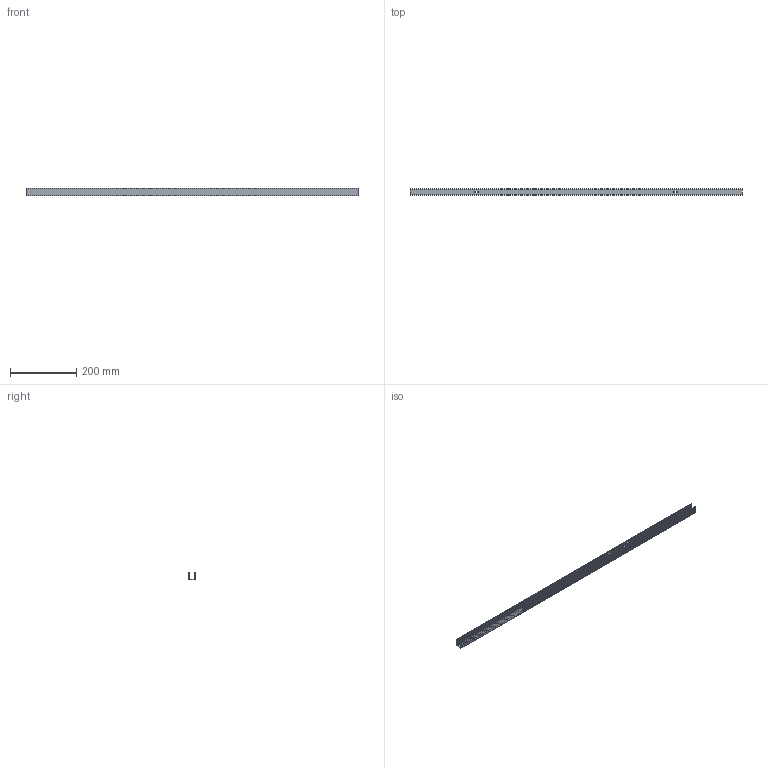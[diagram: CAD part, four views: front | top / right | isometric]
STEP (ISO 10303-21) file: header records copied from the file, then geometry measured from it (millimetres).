
FILE_DESCRIPTION(/* description */ (''),/* implementation_level */ '2;1');
FILE_NAME(/* name */ 'LF_SILICONE_STRAIGHT_PROFILE_L1000_R01.step',/* time_stamp */ '2026-08-18T15:19:33+02:00',/* author */ (''),/* organization */ (''),/* preprocessor_version */ 'ST-DEVELOPER v20.1',/* originating_system */ 'Autodesk Translation Framework v15.8.0.0',/* authorisation */ '');
FILE_SCHEMA (('AUTOMOTIVE_DESIGN { 1 0 10303 214 3 1 1 }'));
Length unit declared in the file: millimetre
Products named in the file (1): 2026-08-18-10-59-34-118
Bounding box: 1000 x 20.2 x 23.2 mm (x, y, z)
Volume: 74693.7 mm3; surface area: 145278.9 mm2
Topology: 1 solids, 1 shells, 54 faces, 156 edges, 104 vertices
Faces by surface type: plane 34, cylinder 20
Entity records: 1821 total; most frequent: CARTESIAN_POINT 315, ORIENTED_EDGE 312, DIRECTION 306, EDGE_CURVE 156, LINE 116, VECTOR 116, VERTEX_POINT 104, AXIS2_PLACEMENT_3D 95
